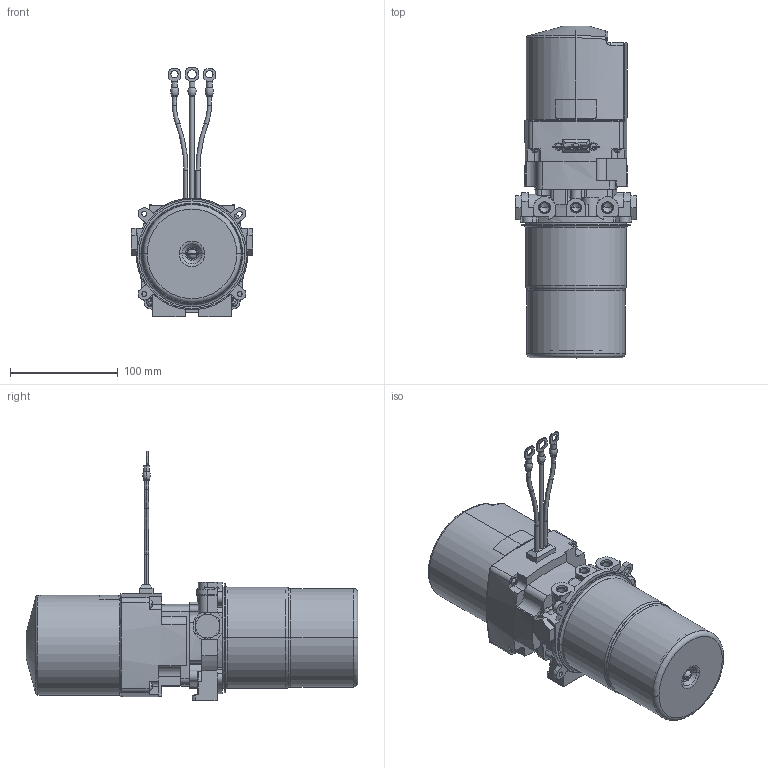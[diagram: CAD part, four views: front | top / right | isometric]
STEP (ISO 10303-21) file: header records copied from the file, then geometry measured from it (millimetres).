
FILE_DESCRIPTION((''),'2;1');
FILE_NAME('108-AM-BI-B_ASM','2015-03-06T',('DA10877'),('OILDYNE'),'PRO/ENGINEER BY PARAMETRIC TECHNOLOGY CORPORATION, 2009300','PRO/ENGINEER BY PARAMETRIC TECHNOLOGY CORPORATION, 2009300','');
FILE_SCHEMA(('CONFIG_CONTROL_DESIGN'));
Length unit declared in the file: inch
Products named in the file (1): 108-AM-BI-B_ASM
Bounding box: 113.03 x 307.94 x 231.13 mm (x, y, z)
Volume: 1311192.8 mm3; surface area: 204364.1 mm2
Topology: 2 solids, 6 shells, 936 faces, 2432 edges, 1541 vertices
Faces by surface type: plane 438, cylinder 302, cone 92, torus 72, bspline 26, sphere 6
Entity records: 30020 total; most frequent: CARTESIAN_POINT 6961, DIRECTION 4856, ORIENTED_EDGE 4836, EDGE_CURVE 2418, AXIS2_PLACEMENT_3D 1780, VERTEX_POINT 1541, VECTOR 1296, LINE 1296
